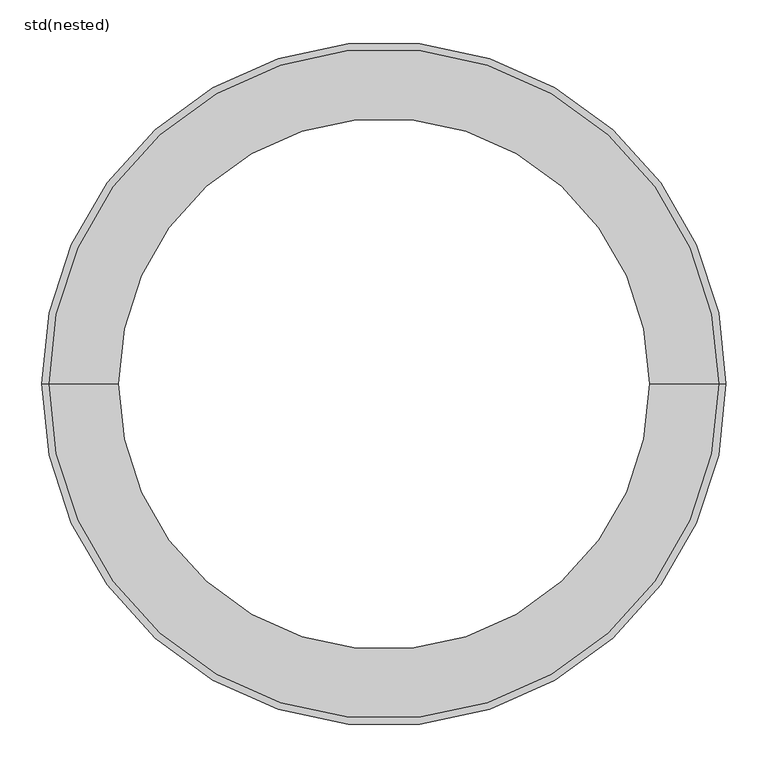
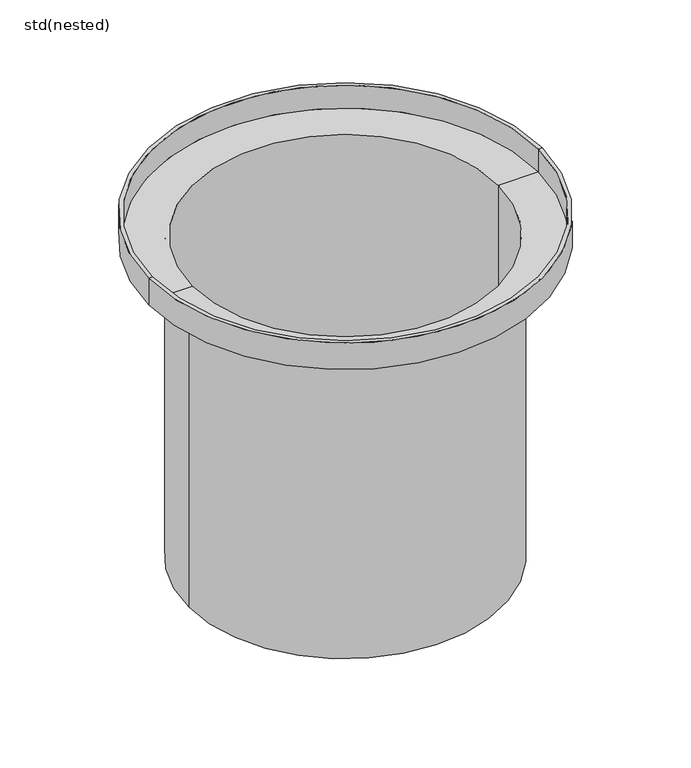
"""IFC4 building model written with IfcOpenShell, lengths in millimetres: unitary equipment geometry, ZZZ_do not use_ME_ST_UN_top section_ACO : std(nested)."""

from ifc_helpers import new_model, si_unit, frame, origin, place, context, project, spatial, polyline, circle_curve, source, transform, mapped, element, save
from ifc_brep_helpers import plane_surface, cylinder_surface, revolved_surface, advanced_brep


def std_nested_569371f2(model_context):
    return source(origin(), model_context, "Body", "AdvancedBrep", [
        advanced_brep(
        [(-400.0, 0.0, -4.875), (400.0, 0.0, -4.875), (400.0, 0.0, 45.0), (-400.0, 0.0, 45.0), (-317.006351, 0.0, -4.875), (317.006351, 0.0, -4.875), (-317.006351, 0.0, -705.0), (317.006351, 0.0, -705.0), (-325.006351, 0.0, -705.0), (325.006351, 0.0, -705.0), (-325.006351, 0.0, -13.0), (325.006351, 0.0, -13.0), (-408.0, 0.0, -13.0), (408.0, 0.0, -13.0), (-408.0, 0.0, 45.0), (408.0, 0.0, 45.0)],
        [
            (0, 1, circle_curve(frame((0.0, 0.0, -4.875), z_axis=(0.0, 0.0, -1.0), x_axis=(1.0, 0.0, 0.0)), 400.0)),
            (1, 2),
            (2, 3, circle_curve(frame((0.0, 0.0, 45.0), z_axis=(0.0, 0.0, 1.0), x_axis=(1.0, 0.0, 0.0)), 400.0)),
            (3, 0),
            (1, 0, circle_curve(frame((0.0, 0.0, -4.875), z_axis=(0.0, 0.0, -1.0), x_axis=(1.0, 0.0, 0.0)), 400.0)),
            (3, 2, circle_curve(frame((0.0, 0.0, 45.0), z_axis=(0.0, 0.0, 1.0), x_axis=(1.0, 0.0, 0.0)), 400.0)),
            (4, 5, circle_curve(frame((0.0, 0.0, -4.875), z_axis=(0.0, 0.0, -1.0), x_axis=(1.0, 0.0, 0.0)), 317.006351)),
            (5, 1),
            (0, 4),
            (5, 4, circle_curve(frame((0.0, 0.0, -4.875), z_axis=(0.0, 0.0, -1.0), x_axis=(1.0, 0.0, 0.0)), 317.006351)),
            (6, 7, circle_curve(frame((0.0, 0.0, -705.0), z_axis=(0.0, 0.0, -1.0), x_axis=(1.0, 0.0, 0.0)), 317.006351)),
            (7, 5),
            (4, 6),
            (7, 6, circle_curve(frame((0.0, 0.0, -705.0), z_axis=(0.0, 0.0, -1.0), x_axis=(1.0, 0.0, 0.0)), 317.006351)),
            (8, 9, circle_curve(frame((0.0, 0.0, -705.0), z_axis=(0.0, 0.0, -1.0), x_axis=(1.0, 0.0, 0.0)), 325.006351)),
            (9, 7),
            (6, 8),
            (9, 8, circle_curve(frame((0.0, 0.0, -705.0), z_axis=(0.0, 0.0, -1.0), x_axis=(1.0, 0.0, 0.0)), 325.006351)),
            (10, 11, circle_curve(frame((0.0, 0.0, -13.0), z_axis=(0.0, 0.0, -1.0), x_axis=(1.0, 0.0, 0.0)), 325.006351)),
            (11, 9),
            (8, 10),
            (11, 10, circle_curve(frame((0.0, 0.0, -13.0), z_axis=(0.0, 0.0, -1.0), x_axis=(1.0, 0.0, 0.0)), 325.006351)),
            (12, 13, circle_curve(frame((0.0, 0.0, -13.0), z_axis=(0.0, 0.0, -1.0), x_axis=(1.0, 0.0, 0.0)), 408.0)),
            (13, 11),
            (10, 12),
            (13, 12, circle_curve(frame((0.0, 0.0, -13.0), z_axis=(0.0, 0.0, -1.0), x_axis=(1.0, 0.0, 0.0)), 408.0)),
            (14, 15, circle_curve(frame((0.0, 0.0, 45.0), z_axis=(0.0, 0.0, -1.0), x_axis=(1.0, 0.0, 0.0)), 408.0)),
            (15, 13),
            (12, 14),
            (15, 14, circle_curve(frame((0.0, 0.0, 45.0), z_axis=(0.0, 0.0, -1.0), x_axis=(1.0, 0.0, 0.0)), 408.0)),
            (2, 15),
            (14, 3),
        ],
        [
            revolved_surface(polyline([(400.0, 0.0, 45.0), (400.0, 0.0, -4.875)]), (0.0, 0.0, 303.9422649), (0.0, 0.0, 1.0)),
            plane_surface(frame((0.0, 0.0, -4.875), z_axis=(0.0, 0.0, 1.0), x_axis=(1.0, 0.0, 0.0))),
            revolved_surface(polyline([(317.006351, 0.0, -4.875), (317.006351, 0.0, -705.0)]), (0.0, 0.0, 303.9422649), (0.0, 0.0, 1.0)),
            plane_surface(frame((0.0, 0.0, -705.0), z_axis=(0.0, 0.0, -1.0), x_axis=(1.0, 0.0, 0.0))),
            cylinder_surface(frame((0.0, 0.0, 303.9422649), z_axis=(0.0, 0.0, 1.0), x_axis=(1.0, 0.0, 0.0)), 325.006351),
            plane_surface(frame((0.0, 0.0, -13.0), z_axis=(0.0, 0.0, -1.0), x_axis=(1.0, 0.0, 0.0))),
            cylinder_surface(frame((0.0, 0.0, 303.9422649), z_axis=(0.0, 0.0, 1.0), x_axis=(1.0, 0.0, 0.0)), 408.0),
            plane_surface(frame((0.0, 0.0, 45.0), z_axis=(0.0, 0.0, 1.0), x_axis=(1.0, 0.0, 0.0))),
        ],
        [
            (0, [[1, 2, 3, 4]]),
            (0, [[5, -4, 6, -2]]),
            (1, [[7, 8, -1, 9]]),
            (1, [[10, -9, -5, -8]]),
            (2, [[11, 12, -7, 13]]),
            (2, [[14, -13, -10, -12]]),
            (3, [[15, 16, -11, 17]]),
            (3, [[18, -17, -14, -16]]),
            (4, [[19, 20, -15, 21]]),
            (4, [[22, -21, -18, -20]]),
            (5, [[23, 24, -19, 25]]),
            (5, [[26, -25, -22, -24]]),
            (6, [[27, 28, -23, 29]]),
            (6, [[30, -29, -26, -28]]),
            (7, [[-3, 31, -27, 32]]),
            (7, [[-6, -32, -30, -31]]),
        ],
    ),
    ])


if __name__ == "__main__":
    model = new_model("IFC4")
    model_context = context("Model", 3, world=origin())
    ifc_project = project(units=[si_unit("LENGTHUNIT", "METRE", prefix="MILLI")], contexts=[model_context])
    site = spatial("IfcSite", under=ifc_project)
    building = spatial("IfcBuilding", under=site)
    placement = place(None, origin())
    std_nested_shape = std_nested_569371f2(model_context)
    element("IfcUnitaryEquipment", 1, ObjectType="ZZZ_do not use_ME_ST_UN_top section_ACO : std(nested)", at=placement, inside=building, context=model_context, shape_type="MappedRepresentation", body=[
        mapped(std_nested_shape, transform((0.0, 0.0, 0.0), x_axis=(1.0, 0.0, 0.0), y_axis=(0.0, 1.0, 0.0), z_axis=(0.0, 0.0, 1.0))),
    ])
    save(model, "model.ifc")
